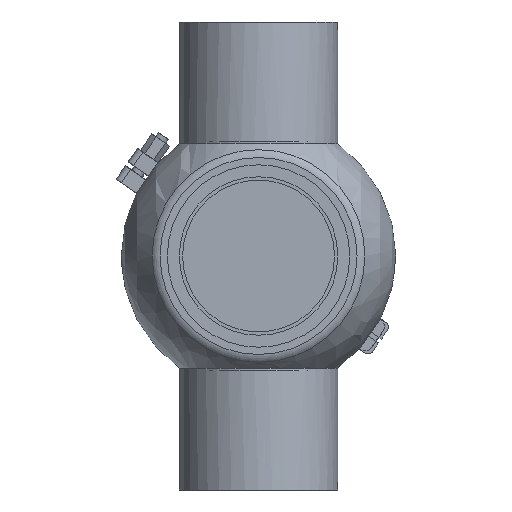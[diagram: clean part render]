
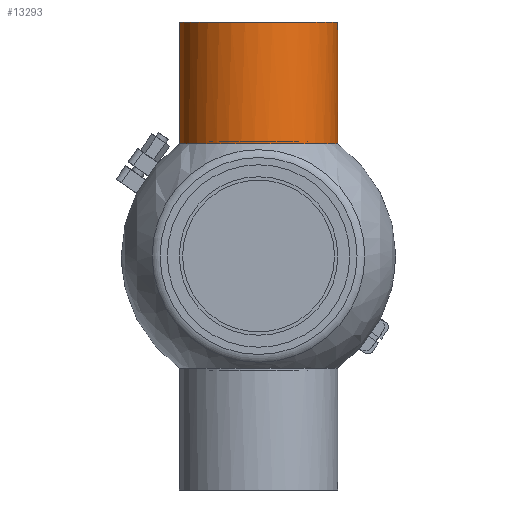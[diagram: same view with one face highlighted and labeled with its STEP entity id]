
A CAD part, front view. The second image highlights one B-rep face of the part: STEP entity #13293.
In plain terms, the highlighted cylindrical face has radius 50.8 mm (diameter 101.6 mm), a full revolution.
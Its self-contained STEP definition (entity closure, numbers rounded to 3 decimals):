
#766 = FACE_OUTER_BOUND ( 'NONE', #26295, .T. ) ;
#4613 = B_SPLINE_CURVE_WITH_KNOTS ( 'NONE', 3,
 ( #14061, #32855, #56939, #18050, #28568, #51744, #36887, #27656 ),
 .UNSPECIFIED., .F., .F.,
 ( 4, 2, 2, 4 ),
 ( 0.011, 0.015, 0.018, 0.026 ),
 .UNSPECIFIED. ) ;
#5705 = FACE_OUTER_BOUND ( 'NONE', #17937, .T. ) ;
#8353 = EDGE_CURVE ( 'NONE', #52711, #57691, #30788, .T. ) ;
#9608 = CARTESIAN_POINT ( 'NONE',  ( 150., 0., 50.8 ) ) ;
#10034 = CYLINDRICAL_SURFACE ( 'NONE', #54367, 50.8 ) ;
#10341 = DIRECTION ( 'NONE',  ( 0., 0., 1. ) ) ;
#13293 = ADVANCED_FACE ( 'NONE', ( #766, #5705 ), #10034, .T. ) ;
#14061 = CARTESIAN_POINT ( 'NONE',  ( 71.857, 50.239, -7.53 ) ) ;
#14088 = AXIS2_PLACEMENT_3D ( 'NONE', #20743, #40173, #40473 ) ;
#15135 = ORIENTED_EDGE ( 'NONE', *, *, #48776, .T. ) ;
#15231 = AXIS2_PLACEMENT_3D ( 'NONE', #50105, #21992, #30041 ) ;
#16995 = EDGE_CURVE ( 'NONE', #48215, #48215, #25083, .T. ) ;
#17937 = EDGE_LOOP ( 'NONE', ( #35730 ) ) ;
#18050 = CARTESIAN_POINT ( 'NONE',  ( 72.218, 50.755, -2.496 ) ) ;
#20743 = CARTESIAN_POINT ( 'NONE',  ( 71.857, 0., 0. ) ) ;
#21992 = DIRECTION ( 'NONE',  ( -1., 0., 0. ) ) ;
#25083 = CIRCLE ( 'NONE', #15231, 50.8 ) ;
#26295 = EDGE_LOOP ( 'NONE', ( #15135, #48811 ) ) ;
#27656 = CARTESIAN_POINT ( 'NONE',  ( 71.857, 50.239, 7.53 ) ) ;
#28568 = CARTESIAN_POINT ( 'NONE',  ( 72.25, 50.801, -1.232 ) ) ;
#28874 = DIRECTION ( 'NONE',  ( -1., 0., 0. ) ) ;
#30041 = DIRECTION ( 'NONE',  ( 0., 0., 1. ) ) ;
#30788 = CIRCLE ( 'NONE', #14088, 50.8 ) ;
#32855 = CARTESIAN_POINT ( 'NONE',  ( 71.987, 50.425, -6.29 ) ) ;
#35730 = ORIENTED_EDGE ( 'NONE', *, *, #16995, .T. ) ;
#36887 = CARTESIAN_POINT ( 'NONE',  ( 72.117, 50.611, 5.047 ) ) ;
#40173 = DIRECTION ( 'NONE',  ( 1., 0., 0. ) ) ;
#40473 = DIRECTION ( 'NONE',  ( 0., 0., 1. ) ) ;
#43362 = CARTESIAN_POINT ( 'NONE',  ( 0., 0., 0. ) ) ;
#44647 = CARTESIAN_POINT ( 'NONE',  ( 71.857, 50.239, -7.53 ) ) ;
#48215 = VERTEX_POINT ( 'NONE', #9608 ) ;
#48776 = EDGE_CURVE ( 'NONE', #57691, #52711, #4613, .T. ) ;
#48811 = ORIENTED_EDGE ( 'NONE', *, *, #8353, .T. ) ;
#50105 = CARTESIAN_POINT ( 'NONE',  ( 150., 0., 0. ) ) ;
#51744 = CARTESIAN_POINT ( 'NONE',  ( 72.249, 50.799, 2.546 ) ) ;
#52711 = VERTEX_POINT ( 'NONE', #59712 ) ;
#54367 = AXIS2_PLACEMENT_3D ( 'NONE', #43362, #28874, #10341 ) ;
#56939 = CARTESIAN_POINT ( 'NONE',  ( 72.086, 50.566, -5.032 ) ) ;
#57691 = VERTEX_POINT ( 'NONE', #44647 ) ;
#59712 = CARTESIAN_POINT ( 'NONE',  ( 71.857, 50.239, 7.53 ) ) ;
